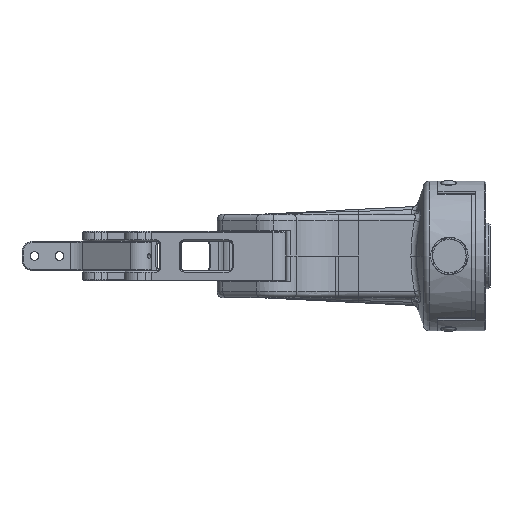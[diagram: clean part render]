
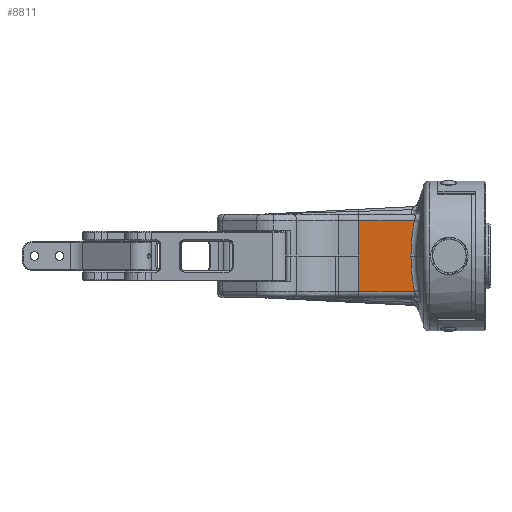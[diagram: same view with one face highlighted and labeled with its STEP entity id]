
A CAD part, left-side view. The second image highlights one B-rep face of the part: STEP entity #8811.
In plain terms, the highlighted planar face has unit normal (-0.998, 0.07, 0).
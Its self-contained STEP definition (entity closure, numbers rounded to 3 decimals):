
#151 = EDGE_CURVE ( 'NONE', #8177, #7838, #35239, .T. ) ;
#409 = EDGE_CURVE ( 'NONE', #37330, #14130, #9855, .T. ) ;
#2761 = EDGE_LOOP ( 'NONE', ( #5574, #23863, #3672, #22456, #4967 ) ) ;
#2953 = PLANE ( 'NONE',  #13647 ) ;
#3672 = ORIENTED_EDGE ( 'NONE', *, *, #409, .T. ) ;
#4967 = ORIENTED_EDGE ( 'NONE', *, *, #20595, .T. ) ;
#5154 = DIRECTION ( 'NONE',  ( 0.998, -0.07, 0. ) ) ;
#5324 = CARTESIAN_POINT ( 'NONE',  ( -20., 0., -17. ) ) ;
#5574 = ORIENTED_EDGE ( 'NONE', *, *, #151, .T. ) ;
#6079 = VECTOR ( 'NONE', #19890, 1000. ) ;
#7838 = VERTEX_POINT ( 'NONE', #11795 ) ;
#8177 = VERTEX_POINT ( 'NONE', #5324 ) ;
#8811 = ADVANCED_FACE ( 'NONE', ( #15210 ), #2953, .F. ) ;
#9855 = CIRCLE ( 'NONE', #20154, 87.703 ) ;
#10475 = VECTOR ( 'NONE', #31427, 1000. ) ;
#10843 = LINE ( 'NONE', #26328, #31063 ) ;
#10924 = DIRECTION ( 'NONE',  ( 0.07, 0.998, 0. ) ) ;
#11430 = DIRECTION ( 'NONE',  ( 0.07, 0.998, 0. ) ) ;
#11751 = CARTESIAN_POINT ( 'NONE',  ( -20., 0., 17. ) ) ;
#11795 = CARTESIAN_POINT ( 'NONE',  ( -21.868, -26.707, -17. ) ) ;
#12831 = EDGE_CURVE ( 'NONE', #14130, #36164, #10843, .T. ) ;
#13647 = AXIS2_PLACEMENT_3D ( 'NONE', #33889, #32759, #23331 ) ;
#14130 = VERTEX_POINT ( 'NONE', #19193 ) ;
#15210 = FACE_OUTER_BOUND ( 'NONE', #2761, .T. ) ;
#17421 = DIRECTION ( 'NONE',  ( 0.07, 0.998, 0. ) ) ;
#19175 = CARTESIAN_POINT ( 'NONE',  ( -22.067, -29.557, -17. ) ) ;
#19193 = CARTESIAN_POINT ( 'NONE',  ( -21.868, -26.707, 17. ) ) ;
#19890 = DIRECTION ( 'NONE',  ( 0., 0., -1. ) ) ;
#20154 = AXIS2_PLACEMENT_3D ( 'NONE', #26817, #32819, #10924 ) ;
#20426 = CARTESIAN_POINT ( 'NONE',  ( -27.869, -112.538, 0. ) ) ;
#20595 = EDGE_CURVE ( 'NONE', #36164, #8177, #22934, .T. ) ;
#20843 = CIRCLE ( 'NONE', #24067, 87.703 ) ;
#21833 = EDGE_CURVE ( 'NONE', #7838, #37330, #20843, .T. ) ;
#22456 = ORIENTED_EDGE ( 'NONE', *, *, #12831, .T. ) ;
#22934 = LINE ( 'NONE', #35176, #6079 ) ;
#23296 = CARTESIAN_POINT ( 'NONE',  ( -21.752, -25.048, 0. ) ) ;
#23331 = DIRECTION ( 'NONE',  ( 0.07, 0.998, 0. ) ) ;
#23863 = ORIENTED_EDGE ( 'NONE', *, *, #21833, .T. ) ;
#24067 = AXIS2_PLACEMENT_3D ( 'NONE', #20426, #5154, #17421 ) ;
#26328 = CARTESIAN_POINT ( 'NONE',  ( -20., 0., 17. ) ) ;
#26817 = CARTESIAN_POINT ( 'NONE',  ( -27.869, -112.538, 0. ) ) ;
#31063 = VECTOR ( 'NONE', #11430, 1000. ) ;
#31427 = DIRECTION ( 'NONE',  ( -0.07, -0.998, 0. ) ) ;
#32759 = DIRECTION ( 'NONE',  ( 0.998, -0.07, 0. ) ) ;
#32819 = DIRECTION ( 'NONE',  ( 0.998, -0.07, 0. ) ) ;
#33889 = CARTESIAN_POINT ( 'NONE',  ( -20., 0., 20. ) ) ;
#35176 = CARTESIAN_POINT ( 'NONE',  ( -20., 0., 20. ) ) ;
#35239 = LINE ( 'NONE', #19175, #10475 ) ;
#36164 = VERTEX_POINT ( 'NONE', #11751 ) ;
#37330 = VERTEX_POINT ( 'NONE', #23296 ) ;
